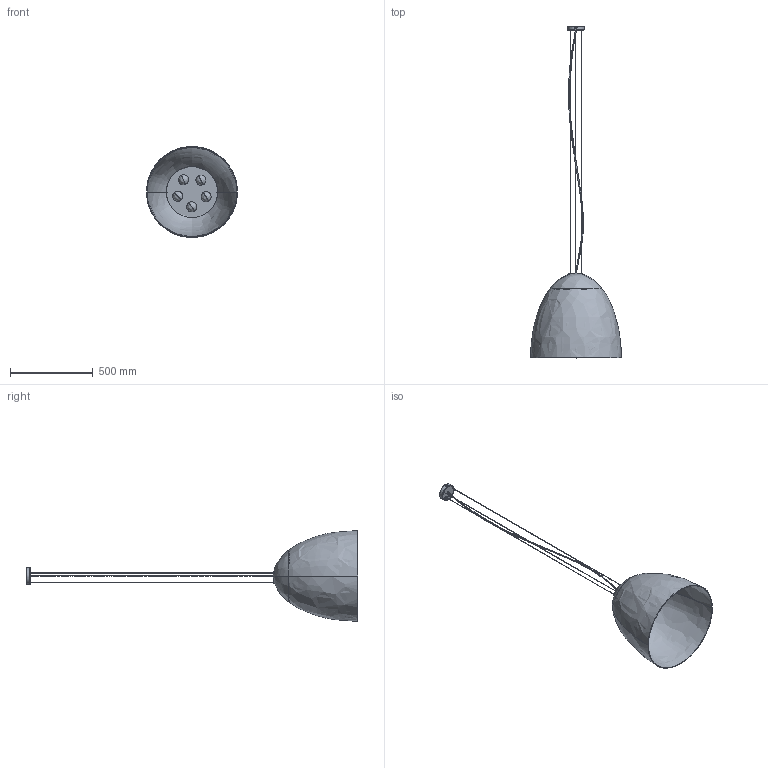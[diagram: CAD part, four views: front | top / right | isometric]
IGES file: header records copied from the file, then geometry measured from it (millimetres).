
Start section: SolidWorks IGES file using analytic representation for surfaces
Global section: file name: D:\Nowodworski\Modele 3D\Lampy\EGG BLACK M 9022\Z³o¿enie EGG L 9024 DLA ASI.IGS; native system: SolidWorks 2017; preprocessor: SolidWorks 2017; author: DELL; date: 190703.133805; units: millimetre
Bounding box: 550 x 2009.51 x 550 mm (x, y, z)
Surface area: 2001574.9 mm2 (no closed solid volume)
Topology: 0 solids, 0 shells, 1602 faces, 18718 edges, 18597 vertices
Faces by surface type: revolution 963, bspline 639
